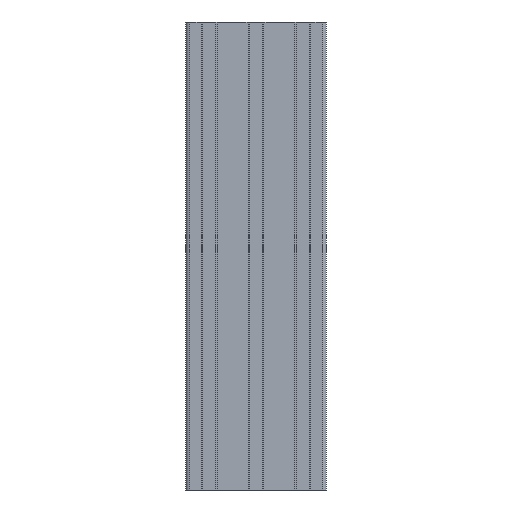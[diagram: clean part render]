
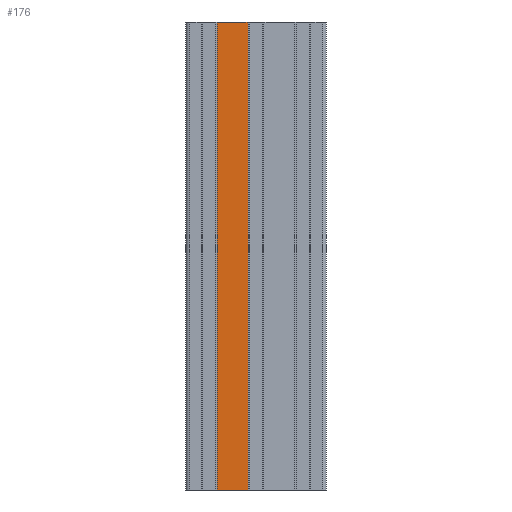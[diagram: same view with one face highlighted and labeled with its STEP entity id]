
A CAD part, front view. The second image highlights one B-rep face of the part: STEP entity #176.
In plain terms, the highlighted planar face has unit normal (0, -1, 0).
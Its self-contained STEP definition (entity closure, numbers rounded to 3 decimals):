
#129 = EDGE_LOOP ( 'NONE', ( #2450, #4743, #4286, #447 ) ) ;
#136 = CARTESIAN_POINT ( 'NONE',  ( -5.1, -15., -150. ) ) ;
#176 = ADVANCED_FACE ( 'NONE', ( #3838 ), #2530, .T. ) ;
#197 = EDGE_CURVE ( 'NONE', #4486, #3982, #3376, .T. ) ;
#447 = ORIENTED_EDGE ( 'NONE', *, *, #1726, .T. ) ;
#553 = LINE ( 'NONE', #3213, #3055 ) ;
#791 = VECTOR ( 'NONE', #2262, 1000. ) ;
#847 = DIRECTION ( 'NONE',  ( 1., 0., 0. ) ) ;
#1047 = CARTESIAN_POINT ( 'NONE',  ( -24.9, -15., -150. ) ) ;
#1215 = AXIS2_PLACEMENT_3D ( 'NONE', #1968, #1411, #847 ) ;
#1234 = EDGE_CURVE ( 'NONE', #4486, #3063, #3937, .T. ) ;
#1411 = DIRECTION ( 'NONE',  ( 0., -1., 0. ) ) ;
#1726 = EDGE_CURVE ( 'NONE', #3982, #4575, #4769, .T. ) ;
#1968 = CARTESIAN_POINT ( 'NONE',  ( 0., -15., 150. ) ) ;
#2042 = VECTOR ( 'NONE', #2845, 1000. ) ;
#2135 = VECTOR ( 'NONE', #3673, 1000. ) ;
#2262 = DIRECTION ( 'NONE',  ( -1., 0., 0. ) ) ;
#2450 = ORIENTED_EDGE ( 'NONE', *, *, #3833, .F. ) ;
#2530 = PLANE ( 'NONE',  #1215 ) ;
#2663 = DIRECTION ( 'NONE',  ( -1., 0., 0. ) ) ;
#2836 = CARTESIAN_POINT ( 'NONE',  ( 0., -15., 150. ) ) ;
#2845 = DIRECTION ( 'NONE',  ( 0., 0., -1. ) ) ;
#3055 = VECTOR ( 'NONE', #2663, 1000. ) ;
#3063 = VERTEX_POINT ( 'NONE', #136 ) ;
#3213 = CARTESIAN_POINT ( 'NONE',  ( 0., -15., -150. ) ) ;
#3376 = LINE ( 'NONE', #2836, #791 ) ;
#3384 = CARTESIAN_POINT ( 'NONE',  ( -5.1, -15., 150. ) ) ;
#3673 = DIRECTION ( 'NONE',  ( 0., 0., -1. ) ) ;
#3698 = CARTESIAN_POINT ( 'NONE',  ( -24.9, -15., 150. ) ) ;
#3833 = EDGE_CURVE ( 'NONE', #3063, #4575, #553, .T. ) ;
#3838 = FACE_OUTER_BOUND ( 'NONE', #129, .T. ) ;
#3937 = LINE ( 'NONE', #3384, #2042 ) ;
#3982 = VERTEX_POINT ( 'NONE', #3698 ) ;
#4206 = CARTESIAN_POINT ( 'NONE',  ( -24.9, -15., 150. ) ) ;
#4286 = ORIENTED_EDGE ( 'NONE', *, *, #197, .T. ) ;
#4486 = VERTEX_POINT ( 'NONE', #4627 ) ;
#4575 = VERTEX_POINT ( 'NONE', #1047 ) ;
#4627 = CARTESIAN_POINT ( 'NONE',  ( -5.1, -15., 150. ) ) ;
#4743 = ORIENTED_EDGE ( 'NONE', *, *, #1234, .F. ) ;
#4769 = LINE ( 'NONE', #4206, #2135 ) ;
